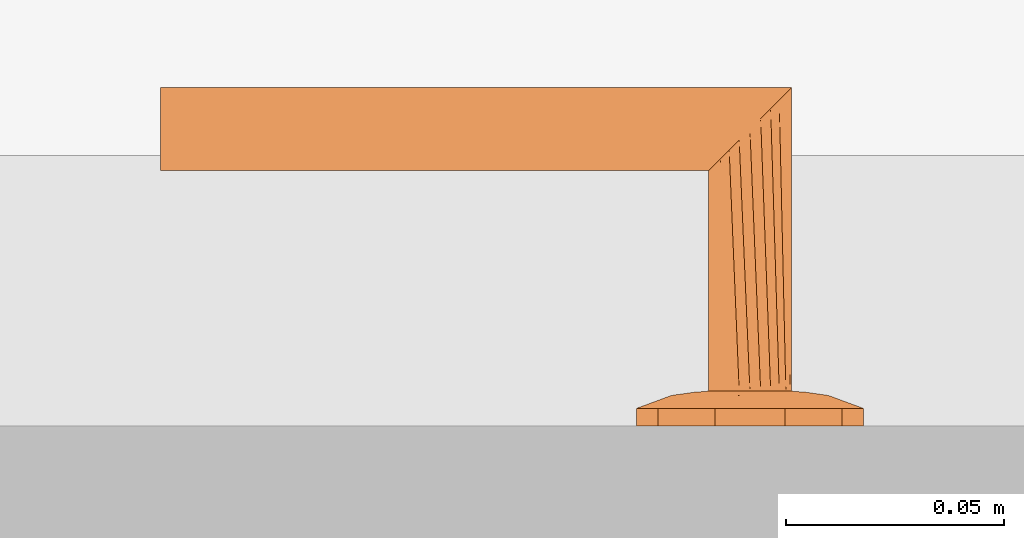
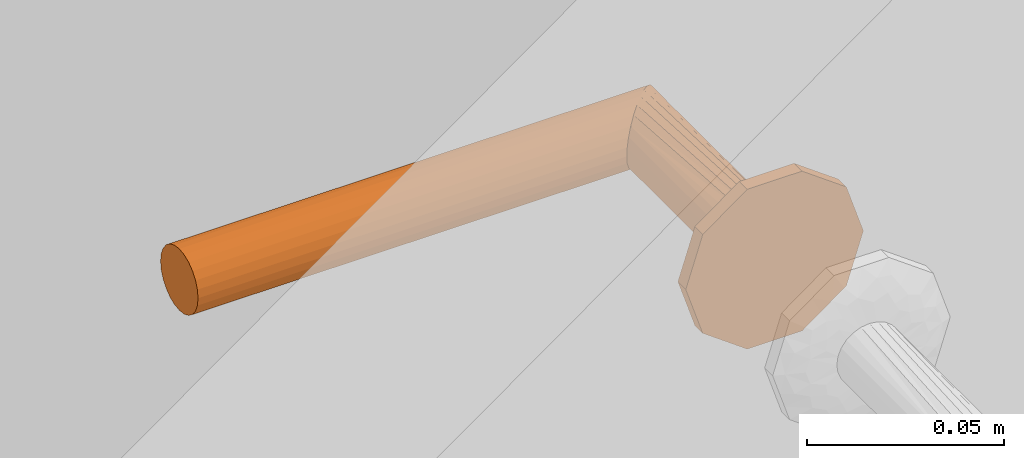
# One storey, part 62 of 68: 1 proxy.
"""IFC2X3 building model written with IfcOpenShell, lengths in millimetres."""

from ifc_helpers import new_model, entity, si_unit, converted_unit, direction, frame, origin, place, context, subcontext, project, spatial, faceted_brep, source, transform, mapped, material, type_object, type_shapes, element, save


model = new_model("IFC2X3")

# Units and contexts
model_context = context("Model", 3, precision=0.01, world=origin(), true_north=direction((6.123233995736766e-17, 1.0)))
plan_context = context("Plan", 3, precision=0.01, world=origin(), true_north=direction((6.123233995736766e-17, 1.0)))
body_context = subcontext(model_context, "Body", "Model", "MODEL_VIEW")
ifc_project = project(units=[si_unit("LENGTHUNIT", "METRE", prefix="MILLI"), converted_unit("PLANEANGLEUNIT", "DEGREE", entity("IfcPlaneAngleMeasure", 0.017453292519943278), si_unit("PLANEANGLEUNIT", "RADIAN"), dimensions=[0, 0, 0, 0, 0, 0, 0]), si_unit("AREAUNIT", "SQUARE_METRE")], contexts=[model_context, plan_context])

# Site, building, storey
site_placement = place(None, origin())
site = spatial("IfcSite", under=ifc_project, at=site_placement, Name="Default", CompositionType="ELEMENT")
building_placement = place(site_placement, origin())
building = spatial("IfcBuilding", under=site, at=building_placement, CompositionType="ELEMENT")
storey_placement = place(building_placement, frame((0.0, 0.0, 6295.0)))
storey = spatial("IfcBuildingStorey", under=building, at=storey_placement, Name="3K", CompositionType="ELEMENT", Elevation=6294.999999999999)

# Proxy
ifc_material = material(Name="<Unnamed>")
building_element_proxy_type = type_object("IfcBuildingElementProxyType", Name="Door-handle_Lever_ABLOY_INOXI_3-19ss-002_RT:Default", PredefinedType="NOTDEFINED", material=ifc_material)
shared_shape = source(origin(), body_context, "Body", "Brep", [
    faceted_brep([(0.0, 0.0, 0.0), (8.034441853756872, 24.72746942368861, 0.0), (14.534441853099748, 20.00494299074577, 0.0), (21.034441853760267, 15.282416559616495, 0.0), (23.51722092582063, 7.641208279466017, 0.0), (26.0, 0.0, 0.0), (23.517220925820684, -7.641208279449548, 0.0), (0.0, 24.72746942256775, 0.0), (-8.034441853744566, 24.727469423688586, 0.0), (-14.534441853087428, 20.00494299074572, 0.0), (-21.03444185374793, 15.282416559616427, 0.0), (-23.517220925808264, 7.641208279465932, 0.0), (-26.0, 0.0, 0.0), (21.034441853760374, -15.282416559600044, 0.0), (14.534441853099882, -20.004942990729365, 0.0), (8.034441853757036, -24.72746942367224, 0.0), (0.0, -24.72746942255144, 0.0), (-23.517220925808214, -7.641208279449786, 0.0), (-21.034441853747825, -15.282416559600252, 0.0), (-14.53444185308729, -20.004942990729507, 0.0), (-8.0344418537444, -24.72746942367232, 0.0), (0.0, 0.0, 8.0), (9.500000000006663, 0.0, 8.0), (8.312500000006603, 2.056810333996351, 8.0), (7.125000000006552, 4.113620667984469, 8.0), (5.937500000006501, 6.170431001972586, 8.0), (4.7500000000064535, 8.227241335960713, 8.0), (2.375000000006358, 8.2272413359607, 8.0), (0.0, 8.227241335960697, 8.0), (-2.3749999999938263, 8.227241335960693, 8.0), (-4.749999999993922, 8.227241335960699, 8.0), (-5.937499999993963, 6.1704310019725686, 8.0), (-7.124999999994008, 4.1136206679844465, 8.0), (-8.312499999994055, 2.0568103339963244, 8.0), (-9.499999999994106, 0.0, 8.0), (-8.31249999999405, -2.0568103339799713, 8.0), (8.312500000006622, -2.0568103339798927, 8.0), (7.125000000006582, -4.113620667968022, 8.0), (5.937500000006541, -6.170431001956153, 8.0), (4.750000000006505, -8.227241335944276, 8.0), (-7.124999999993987, -4.113620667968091, 8.0), (-5.9374999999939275, -6.17043100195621, 8.0), (-4.74999999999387, -8.227241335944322, 8.0), (-2.374999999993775, -8.227241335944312, 8.0), (0.0, -8.227241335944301, 8.0), (2.3750000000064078, -8.227241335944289, 8.0), (-20.6430713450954, 6.292822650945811, 5.929480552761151), (-16.663919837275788, 7.932665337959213, 6.877259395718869), (-22.48876527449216, 10.806469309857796, 4.030771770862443), (-16.764060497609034, 3.8202578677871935, 7.1747985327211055), (-12.504579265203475, 5.179566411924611, 7.774932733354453), (-11.979136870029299, 13.678312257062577, 6.945778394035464), (-11.963426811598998, 8.62529041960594, 7.618343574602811), (-9.07172672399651, 10.31160661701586, 7.7520782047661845), (8.03444185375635, 24.727469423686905, 4.030771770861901), (0.0, 24.72746942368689, 4.030771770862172), (5.758554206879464, 20.96753300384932, 5.871476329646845), (20.643071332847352, 6.292822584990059, 5.929480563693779), (22.488765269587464, 10.806469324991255, 4.03077177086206), (16.66391982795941, 7.9326653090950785, 6.877259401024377), (9.49943163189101, 18.6436835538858, 6.154325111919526), (14.534441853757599, 20.004942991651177, 4.030771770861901), (-14.534441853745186, 20.00494299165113, 4.030771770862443), (-21.034441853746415, 15.282416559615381, 4.030771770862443), (-15.783149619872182, 11.991003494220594, 6.50080018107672), (-23.943088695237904, 6.330522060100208, 4.030771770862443), (-23.012042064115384, 0.0, 5.135401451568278), (12.50457924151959, 5.179566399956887, 7.774932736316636), (11.963426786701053, 8.625290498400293, 7.618343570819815), (16.76406041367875, 3.820257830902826, 7.17479855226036), (15.783149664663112, 11.991003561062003, 6.50080015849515), (23.01204200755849, 0.0, 5.135401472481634), (17.9853516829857, 0.0, 6.993737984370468), (8.661516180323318, 10.478936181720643, 7.768126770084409), (-3.3573143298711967, 21.197247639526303, 5.971427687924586), (-8.03444185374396, 24.727469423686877, 4.030771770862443), (-7.711266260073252, 12.76034452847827, 7.594456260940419), (-5.97325794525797, 16.43013906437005, 7.110979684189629), (-9.94191586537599, 17.061976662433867, 6.522757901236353), (11.979136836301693, 13.678312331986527, 6.945778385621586), (5.953298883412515, 16.50608604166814, 7.096344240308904), (7.511307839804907, 13.358932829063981, 7.529187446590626), (-1.5654593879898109, 15.307443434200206, 7.519134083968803), (-7.784980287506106, 20.476295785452, 5.812837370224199), (2.8135289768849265, 17.763922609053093, 6.993737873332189), (-17.985351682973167, 0.0, 6.993737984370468), (-26.0, 0.0, 4.030771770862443), (-23.51722092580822, 7.641208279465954, 4.030771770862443), (26.0, 0.0, 4.030771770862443), (24.308823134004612, 5.204907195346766, 4.030771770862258), (23.943088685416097, 6.330522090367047, 4.030771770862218), (21.03444185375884, 15.282416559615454, 4.030771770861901), (22.617646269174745, 10.40981439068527, 4.030771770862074), (20.6430713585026, -6.292822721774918, 5.929480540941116), (16.663919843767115, -7.932665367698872, 6.877259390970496), (22.48876527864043, -10.8064692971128, 4.030771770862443), (16.764060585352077, -3.8202579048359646, 7.174798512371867), (12.504579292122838, -5.17956641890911, 7.774932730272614), (11.979136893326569, -13.678312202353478, 6.9457784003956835), (11.963426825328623, -8.62529034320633, 7.618343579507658), (9.071726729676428, -10.311606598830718, 7.752078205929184), (-8.03444185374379, -24.727469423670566, 4.030771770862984), (0.0, -24.727469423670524, 4.030771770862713), (-5.758554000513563, -20.96753314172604, 5.8714763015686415), (-20.643071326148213, -6.292822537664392, 5.929480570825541), (-22.488765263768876, -10.80646934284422, 4.030771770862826), (-16.66391981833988, -7.932665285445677, 6.877259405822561), (-9.499431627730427, -18.643683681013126, 6.154325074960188), (-14.534441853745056, -20.004942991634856, 4.030771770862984), (14.53444185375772, -20.00494299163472, 4.030771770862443), (21.034441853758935, -15.282416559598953, 4.030771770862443), (15.783149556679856, -11.991003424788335, 6.5008002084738), (23.943088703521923, -6.330522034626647, 4.030771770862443), (-12.504579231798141, -5.17956638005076, 7.77493273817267), (-11.963426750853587, -8.625290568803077, 7.618343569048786), (-16.764060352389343, -3.8202577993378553, 7.174798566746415), (-15.783149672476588, -11.991003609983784, 6.500800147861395), (-8.661516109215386, -10.478936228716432, 7.768126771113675), (3.3573144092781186, -21.197247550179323, 5.971427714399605), (8.034441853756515, -24.727469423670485, 4.030771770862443), (7.711266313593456, -12.760344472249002, 7.5944562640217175), (5.9732581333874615, -16.430139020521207, 7.110979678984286), (9.941915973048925, -17.06197655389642, 6.522757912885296), (-11.979136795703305, -13.678312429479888, 6.945778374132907), (-5.953298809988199, -16.506086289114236, 7.096344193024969), (-7.511307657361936, -13.358932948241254, 7.5291874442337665), (1.5654596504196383, -15.3074431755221, 7.519134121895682), (7.784980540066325, -20.476295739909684, 5.812837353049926), (-2.81352881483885, -17.76392263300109, 6.993737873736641), (23.517220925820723, -7.64120827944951, 4.030771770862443), (-24.308823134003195, -5.20490719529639, 4.030771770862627), (-23.943088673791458, -6.330522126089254, 4.030771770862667), (-21.034441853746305, -15.282416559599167, 4.030771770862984), (-22.617646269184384, -10.409814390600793, 4.0307717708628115)], [[[0, 1, 2]], [[0, 2, 3]], [[0, 3, 4]], [[0, 4, 5]], [[0, 5, 6]], [[0, 7, 1]], [[0, 8, 7]], [[0, 9, 8]], [[0, 10, 9]], [[0, 11, 10]], [[0, 12, 11]], [[0, 6, 13]], [[0, 13, 14]], [[0, 14, 15]], [[0, 15, 16]], [[0, 17, 12]], [[0, 18, 17]], [[0, 19, 18]], [[0, 20, 19]], [[0, 16, 20]], [[21, 22, 23]], [[21, 23, 24]], [[21, 24, 25]], [[21, 25, 26]], [[21, 26, 27]], [[21, 27, 28]], [[21, 28, 29]], [[21, 29, 30]], [[21, 30, 31]], [[21, 31, 32]], [[21, 32, 33]], [[21, 33, 34]], [[21, 34, 35]], [[21, 36, 22]], [[21, 37, 36]], [[21, 38, 37]], [[21, 39, 38]], [[21, 35, 40]], [[21, 40, 41]], [[21, 41, 42]], [[21, 42, 43]], [[21, 43, 44]], [[21, 44, 45]], [[21, 45, 39]], [[46, 47, 48]], [[49, 50, 47]], [[33, 32, 50]], [[51, 52, 53]], [[32, 52, 50]], [[49, 47, 46]], [[54, 55, 56]], [[57, 58, 59]], [[60, 61, 54]], [[62, 63, 64]], [[46, 65, 66]], [[67, 59, 68]], [[23, 69, 67]], [[70, 68, 59]], [[23, 22, 69]], [[52, 51, 64]], [[71, 69, 72]], [[73, 25, 68]], [[74, 55, 75]], [[76, 77, 78]], [[70, 61, 79]], [[71, 57, 69]], [[60, 80, 81]], [[51, 76, 78]], [[77, 29, 82]], [[26, 81, 27]], [[74, 83, 77]], [[77, 82, 74]], [[74, 84, 55]], [[34, 49, 85]], [[23, 67, 24]], [[28, 84, 82]], [[74, 82, 84]], [[29, 76, 30]], [[29, 28, 82]], [[49, 34, 33]], [[47, 50, 52]], [[47, 52, 64]], [[50, 49, 33]], [[53, 76, 51]], [[52, 32, 31]], [[49, 66, 85]], [[86, 66, 65]], [[24, 67, 68]], [[83, 78, 77]], [[49, 46, 66]], [[48, 64, 63]], [[46, 48, 87, 65]], [[48, 47, 64]], [[59, 67, 69]], [[26, 73, 81]], [[79, 68, 70]], [[25, 24, 68]], [[71, 88, 89, 90]], [[22, 72, 69]], [[59, 69, 57]], [[79, 61, 60]], [[51, 62, 64]], [[70, 58, 91]], [[90, 57, 71]], [[58, 70, 59]], [[57, 90, 92]], [[79, 60, 81]], [[61, 70, 91]], [[56, 80, 60]], [[79, 81, 73]], [[80, 84, 27]], [[79, 73, 68]], [[27, 84, 28]], [[25, 73, 26]], [[77, 76, 29]], [[31, 30, 53]], [[78, 62, 51]], [[75, 62, 83]], [[78, 83, 62]], [[75, 83, 74]], [[76, 53, 30]], [[31, 53, 52]], [[81, 80, 27]], [[84, 80, 56]], [[84, 56, 55]], [[54, 56, 60]], [[93, 94, 95]], [[96, 97, 94]], [[36, 37, 97]], [[98, 99, 100]], [[37, 99, 97]], [[96, 94, 93]], [[101, 102, 103]], [[104, 105, 106]], [[107, 108, 101]], [[109, 110, 111]], [[93, 112, 71]], [[113, 106, 114]], [[35, 115, 113]], [[116, 114, 106]], [[35, 34, 115]], [[99, 98, 111]], [[66, 115, 85]], [[117, 41, 114]], [[118, 102, 119]], [[120, 121, 122]], [[116, 108, 123]], [[66, 104, 115]], [[107, 124, 125]], [[120, 45, 121]], [[121, 45, 126]], [[42, 125, 43]], [[118, 127, 121]], [[121, 126, 118]], [[118, 128, 102]], [[22, 96, 72]], [[35, 113, 40]], [[44, 128, 126]], [[118, 126, 128]], [[45, 120, 39]], [[45, 44, 126]], [[96, 22, 36]], [[94, 97, 99]], [[94, 99, 111]], [[97, 96, 36]], [[100, 120, 98]], [[99, 37, 38]], [[96, 71, 72]], [[88, 71, 112]], [[40, 113, 114]], [[127, 122, 121]], [[96, 93, 71]], [[95, 111, 110]], [[93, 95, 129, 112]], [[95, 94, 111]], [[106, 113, 115]], [[42, 117, 125]], [[123, 114, 116]], [[41, 40, 114]], [[66, 86, 130, 131]], [[34, 85, 115]], [[106, 115, 104]], [[123, 108, 107]], [[98, 109, 111]], [[116, 105, 132]], [[131, 104, 66]], [[105, 116, 106]], [[104, 131, 133]], [[123, 107, 125]], [[108, 116, 132]], [[103, 124, 107]], [[123, 125, 117]], [[124, 128, 43]], [[123, 117, 114]], [[43, 128, 44]], [[41, 117, 42]], [[38, 39, 100]], [[98, 120, 122]], [[122, 109, 98]], [[119, 109, 127]], [[122, 127, 109]], [[119, 127, 118]], [[120, 100, 39]], [[38, 100, 99]], [[125, 124, 43]], [[128, 124, 103]], [[128, 103, 102]], [[101, 103, 107]], [[9, 10, 63, 62, 75, 8]], [[11, 12, 86, 65, 87, 48, 63, 10]], [[4, 3, 92, 90, 89, 88, 5]], [[3, 91, 58]], [[55, 54, 1, 7, 8, 75]], [[3, 2, 1, 54, 61, 91]], [[13, 6, 5, 88, 112, 129, 95, 110]], [[119, 15, 14, 13, 110, 109]], [[17, 18, 133, 131, 130, 86, 12]], [[18, 132, 105]], [[102, 101, 20, 16, 15, 119]], [[18, 19, 20, 101, 108, 132]], [[57, 92, 58]], [[104, 133, 105]], [[3, 58, 92]], [[18, 105, 133]]]),
    faceted_brep([(0.0, 9.499999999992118, 8.0), (2.4587809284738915, 9.176295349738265, 8.0), (4.7499999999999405, 8.22724133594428, 8.0), (6.717514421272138, 6.7175144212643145, 8.0), (8.227241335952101, 4.749999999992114, 8.0), (9.17629534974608, 2.458780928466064, 8.0), (9.499999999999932, 0.0, 8.0), (9.17629534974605, -2.458780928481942, 8.0), (8.22724133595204, -4.75000000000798, 8.0), (6.717514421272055, -6.717514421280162, 8.0), (4.7499999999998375, -8.227241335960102, 8.0), (2.4587809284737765, -9.176295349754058, 8.0), (0.0, -9.500000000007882, 8.0), (-2.4587809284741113, -9.176295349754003, 8.0), (-4.750000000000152, -8.227241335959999, 8.0), (-6.717514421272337, -6.717514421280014, 8.0), (-8.227241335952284, -4.750000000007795, 8.0), (-9.176295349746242, -2.458780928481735, 8.0), (-9.500000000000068, 0.0, 8.0), (-9.176295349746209, 2.4587809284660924, 8.0), (-8.227241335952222, 4.74999999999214, 8.0), (-6.717514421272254, 6.717514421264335, 8.0), (-4.7500000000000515, 8.227241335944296, 8.0), (-2.4587809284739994, 9.176295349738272, 8.0), (-6.717514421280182, -6.7175144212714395, 61.282485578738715), (-8.227241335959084, -4.7499999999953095, 59.772758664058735), (-9.176295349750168, -2.458780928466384, 58.82370465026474), (-2.4587809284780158, -9.176295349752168, 65.54121907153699), (-4.750000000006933, -8.227241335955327, 63.25000000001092), (-9.500000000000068, 0.0, 58.50000000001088), (0.0, -9.50000000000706, 68.0), (2.4587809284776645, -9.17629534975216, 70.45878092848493), (4.750000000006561, -8.227241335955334, 72.75000000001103), (6.717514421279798, -6.7175144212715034, 74.71751442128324), (9.17629534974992, -2.458780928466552, 77.17629534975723), (8.22724133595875, -4.749999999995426, 76.22724133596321), (9.499999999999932, 0.0, 77.50000000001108), (9.176295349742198, 2.4587809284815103, 77.1762953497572), (8.227241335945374, 4.750000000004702, 76.22724133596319), (4.749999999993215, 8.227241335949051, 72.75000000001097), (6.7175144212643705, 6.717514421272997, 74.7175144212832), (2.4587809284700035, 9.17629534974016, 70.45878092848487), (-2.4587809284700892, 9.176295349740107, 65.54121907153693), (0.0, 9.49999999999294, 68.0), (-6.717514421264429, 6.717514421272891, 61.282485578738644), (-4.749999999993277, 8.227241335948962, 63.250000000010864), (-9.176295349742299, 2.458780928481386, 58.8237046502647), (-8.227241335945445, 4.750000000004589, 59.77275866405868), (-135.0, 9.500000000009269, 68.0), (-135.0, 9.176295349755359, 65.54121907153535), (-135.0, 8.227241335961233, 63.25000000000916), (-135.0, 6.7175144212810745, 61.28248557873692), (-135.0, 4.750000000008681, 59.772758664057), (-135.0, 2.458780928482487, 58.82370465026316), (-135.0, 0.0, 58.50000000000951), (-135.0, -2.458780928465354, 58.823704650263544), (-135.0, -4.749999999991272, 59.772758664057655), (-135.0, -6.717514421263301, 61.28248557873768), (-135.0, -8.227241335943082, 63.250000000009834), (-135.0, -9.17629534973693, 65.54121907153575), (-135.0, -9.499999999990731, 68.0), (-135.0, -9.17629534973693, 70.45878092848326), (-135.0, -8.227241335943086, 72.75000000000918), (-135.0, -6.717514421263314, 74.71751442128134), (-135.0, -4.749999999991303, 76.22724133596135), (-135.0, -2.4587809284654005, 77.17629534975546), (-135.0, 0.0, 77.5000000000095), (-135.0, 2.4587809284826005, 77.17629534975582), (-135.0, 4.750000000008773, 76.22724133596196), (-135.0, 6.717514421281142, 74.71751442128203), (-135.0, 8.227241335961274, 72.75000000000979), (-135.0, 9.176295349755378, 70.4587809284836)], [[[0, 1, 2, 3, 4, 5, 6, 7, 8, 9, 10, 11, 12, 13, 14, 15, 16, 17, 18, 19, 20, 21, 22, 23]], [[15, 24, 25, 16]], [[16, 25, 26, 17]], [[27, 28, 12]], [[12, 28, 13]], [[13, 28, 24]], [[18, 17, 26, 29]], [[24, 15, 14]], [[14, 13, 24]], [[11, 30, 27]], [[31, 9, 32]], [[32, 8, 33]], [[34, 35, 7]], [[7, 35, 33]], [[36, 34, 7, 6]], [[30, 11, 10]], [[11, 27, 12]], [[33, 8, 7]], [[8, 32, 9]], [[31, 10, 9]], [[10, 31, 30]], [[37, 36, 6, 5]], [[37, 5, 38]], [[39, 40, 4]], [[5, 40, 38]], [[41, 39, 3]], [[5, 4, 40]], [[42, 43, 1]], [[2, 1, 43]], [[2, 41, 3]], [[39, 4, 3]], [[2, 43, 41]], [[23, 44, 45]], [[0, 45, 42]], [[19, 18, 29, 46]], [[20, 19, 46, 47]], [[21, 20, 47, 44]], [[23, 22, 44]], [[45, 0, 23]], [[44, 22, 21]], [[1, 0, 42]], [[48, 49, 50, 51, 52, 53, 54, 55, 56, 57, 58, 59, 60, 61, 62, 63, 64, 65, 66, 67, 68, 69, 70, 71]], [[26, 25, 56, 55]], [[29, 26, 55, 54]], [[28, 27, 59, 58]], [[24, 28, 58, 57]], [[25, 24, 57, 56]], [[27, 30, 60, 59]], [[32, 33, 63, 62]], [[31, 32, 62, 61]], [[34, 36, 66, 65]], [[35, 34, 65, 64]], [[33, 35, 64, 63]], [[61, 60, 30, 31]], [[38, 68, 67, 37]], [[37, 67, 66, 36]], [[41, 71, 70, 39]], [[39, 70, 69, 40]], [[40, 69, 68, 38]], [[48, 71, 41, 43]], [[44, 51, 50, 45]], [[45, 50, 49, 42]], [[29, 54, 53, 46]], [[46, 53, 52, 47]], [[47, 52, 51, 44]], [[42, 49, 48, 43]]]),
])
type_shapes(building_element_proxy_type, [shared_shape])
proxy_placement = place(storey_placement, frame((13098.996767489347, 5257.99995949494, 1000.0), z_axis=(0.0, 1.0, 0.0), x_axis=(1.0, 0.0, 0.0)))
element("IfcBuildingElementProxy", 1, at=proxy_placement, inside=storey, type_object=building_element_proxy_type, material=ifc_material, Name="Door-handle_Lever_ABLOY_INOXI_3-19ss-002_RT:Default", ObjectType="Door-handle_Lever_ABLOY_INOXI_3-19ss-002_RT:Default", context=body_context, shape_type="MappedRepresentation", body=[
    mapped(shared_shape, transform((0.0, 0.0, 0.0), scale=1.0)),
])

save(model, "model.ifc")
